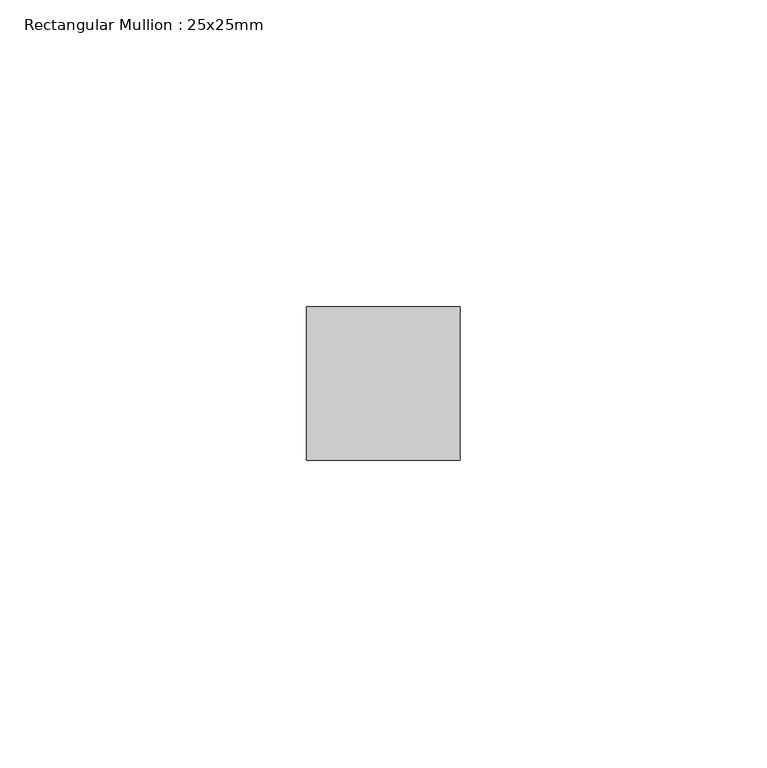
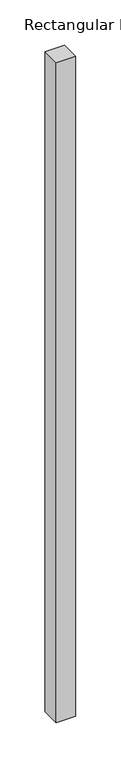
"""IFC4 building model written with IfcOpenShell, lengths in millimetres: member geometry, Rectangular Mullion : 25x25mm."""

from ifc_helpers import new_model, si_unit, frame, origin, place, context, project, spatial, polyline, outline, extrude, source, transform, mapped, element, save


def rectangular_mullion_25x25mm_675738ca(model_context):
    return source(origin(), model_context, "Body", "SweptSolid", [
        extrude(outline(polyline([(0.0, 0.5), (0.0, -24.5), (-25.0, -24.5), (-25.0, 0.5), (0.0, 0.5)])), frame((0.0, 0.0, -892.5), z_axis=(0.0, 0.0, 1.0), x_axis=(1.0, 0.0, 0.0)), (0.0, 0.0, 1.0), 892.5),
    ])


if __name__ == "__main__":
    model = new_model("IFC4")
    model_context = context("Model", 3, world=origin())
    ifc_project = project(units=[si_unit("LENGTHUNIT", "METRE", prefix="MILLI")], contexts=[model_context])
    site = spatial("IfcSite", under=ifc_project)
    building = spatial("IfcBuilding", under=site)
    placement = place(None, origin())
    rectangular_mullion_25x25mm_shape = rectangular_mullion_25x25mm_675738ca(model_context)
    element("IfcMember", 1, ObjectType="Rectangular Mullion : 25x25mm", at=placement, inside=building, context=model_context, shape_type="MappedRepresentation", body=[
        mapped(rectangular_mullion_25x25mm_shape, transform((0.0, 0.0, 0.0), x_axis=(1.0, 0.0, 0.0), y_axis=(0.0, 1.0, 0.0), z_axis=(0.0, 0.0, 1.0))),
    ])
    save(model, "model.ifc")
